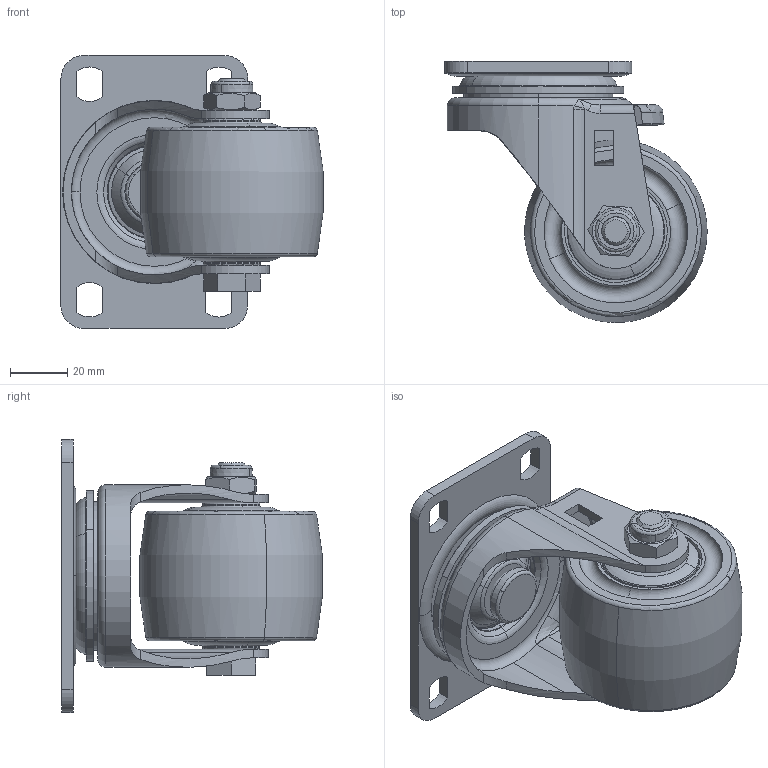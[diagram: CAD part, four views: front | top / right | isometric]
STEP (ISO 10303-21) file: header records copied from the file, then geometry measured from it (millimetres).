
FILE_DESCRIPTION (( 'STEP AP203' ), '1' );
FILE_NAME ('11090250052013.STEP', '2025-06-03T09:53:06', ( '' ), ( '' ), 'SwSTEP 2.0', 'SolidWorks 2021', '' );
FILE_SCHEMA (( 'CONFIG_CONTROL_DESIGN' ));
Length unit declared in the file: millimetre
Products named in the file (9): 尼帽M10; 六角頭車心; 湮疏屜(陔ㄘ_蕼偞; 2.5X2MRC_蕼偞; 高級底板; 2.5渡藝弊謫魂雄褐1; 鋼球6; 11090250052013; 鉚釘
Assembly tree (8 placements, depth 2):
  11090250052013
    鉚釘
    鋼球6
    尼帽M10
    高級底板
    2.5X2MRC_蕼偞
    2.5渡藝弊謫魂雄褐1
    湮疏屜(陔ㄘ_蕼偞
    六角頭車心
Bounding box: 91.27 x 90.74 x 95.02 mm (x, y, z)
Volume: 196536.3 mm3; surface area: 81274.3 mm2
Topology: 53 solids, 53 shells, 462 faces, 1171 edges, 713 vertices
Faces by surface type: plane 117, cylinder 112, torus 85, bspline 66, sphere 42, cone 40
Entity records: 16527 total; most frequent: CARTESIAN_POINT 5515, DIRECTION 2240, ORIENTED_EDGE 1952, EDGE_CURVE 976, AXIS2_PLACEMENT_3D 960, VERTEX_POINT 650, CIRCLE 553, EDGE_LOOP 522
